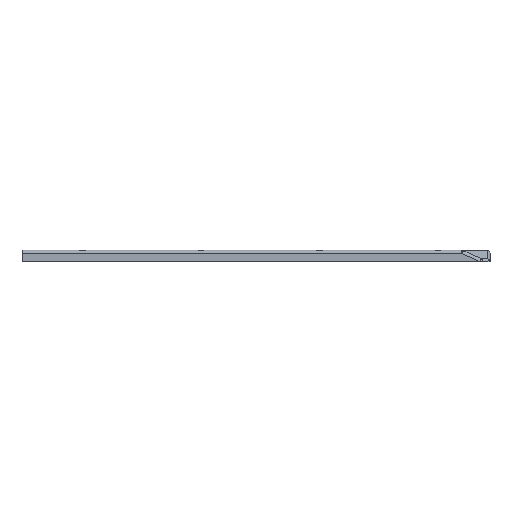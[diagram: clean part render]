
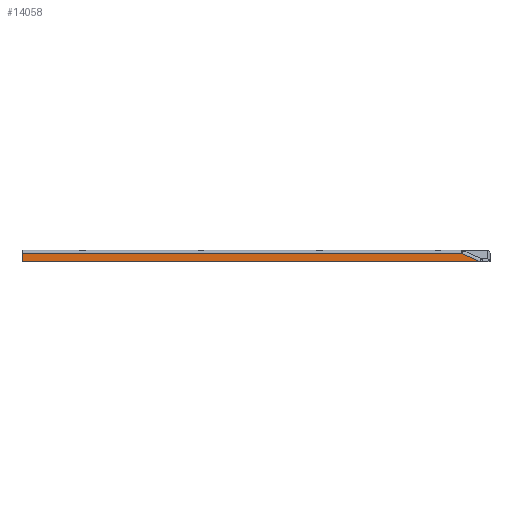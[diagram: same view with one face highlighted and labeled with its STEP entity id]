
A CAD part, front view. The second image highlights one B-rep face of the part: STEP entity #14058.
In plain terms, the highlighted planar face has unit normal (0, -1, 0).
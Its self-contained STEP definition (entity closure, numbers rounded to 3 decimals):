
#2266 = DIRECTION ( 'NONE',  ( 0., 0., 1. ) ) ;
#2311 = CARTESIAN_POINT ( 'NONE',  ( 216.821, -2., -3.5 ) ) ;
#2356 = CARTESIAN_POINT ( 'NONE',  ( 216.821, -2., -3.323 ) ) ;
#2432 = EDGE_CURVE ( 'NONE', #12665, #15938, #11531, .T. ) ;
#2632 = FACE_OUTER_BOUND ( 'NONE', #10693, .T. ) ;
#2634 = CARTESIAN_POINT ( 'NONE',  ( 207.03, -2., 1.083 ) ) ;
#3195 = LINE ( 'NONE', #4096, #10978 ) ;
#3428 = VERTEX_POINT ( 'NONE', #2311 ) ;
#3508 = ORIENTED_EDGE ( 'NONE', *, *, #15409, .T. ) ;
#3590 = LINE ( 'NONE', #10104, #4403 ) ;
#4037 = DIRECTION ( 'NONE',  ( 0., 0., -1. ) ) ;
#4096 = CARTESIAN_POINT ( 'NONE',  ( 4.443, -2., 0.5 ) ) ;
#4140 = CARTESIAN_POINT ( 'NONE',  ( 4.443, -2., 2. ) ) ;
#4403 = VECTOR ( 'NONE', #8679, 1000. ) ;
#4620 = EDGE_CURVE ( 'NONE', #11565, #13204, #5098, .T. ) ;
#4982 = CARTESIAN_POINT ( 'NONE',  ( 4.443, -2., 0.5 ) ) ;
#5098 = LINE ( 'NONE', #4140, #16105 ) ;
#6107 = LINE ( 'NONE', #7243, #8771 ) ;
#7189 = DIRECTION ( 'NONE',  ( 0., 0., 1. ) ) ;
#7243 = CARTESIAN_POINT ( 'NONE',  ( 216.821, -2., -2.5 ) ) ;
#7362 = PLANE ( 'NONE',  #10121 ) ;
#7763 = ORIENTED_EDGE ( 'NONE', *, *, #14001, .T. ) ;
#8034 = ORIENTED_EDGE ( 'NONE', *, *, #15615, .T. ) ;
#8679 = DIRECTION ( 'NONE',  ( 1., 0., 0. ) ) ;
#8771 = VECTOR ( 'NONE', #7189, 1000. ) ;
#10038 = DIRECTION ( 'NONE',  ( 0., 1., 0. ) ) ;
#10104 = CARTESIAN_POINT ( 'NONE',  ( 221.443, -2., -3.5 ) ) ;
#10121 = AXIS2_PLACEMENT_3D ( 'NONE', #15380, #10038, #2266 ) ;
#10353 = DIRECTION ( 'NONE',  ( -0.912, 0., 0.41 ) ) ;
#10693 = EDGE_LOOP ( 'NONE', ( #8034, #7763, #11114, #3508, #15138 ) ) ;
#10918 = VECTOR ( 'NONE', #10353, 1000. ) ;
#10978 = VECTOR ( 'NONE', #14726, 1000. ) ;
#11114 = ORIENTED_EDGE ( 'NONE', *, *, #2432, .T. ) ;
#11531 = LINE ( 'NONE', #2634, #10918 ) ;
#11565 = VERTEX_POINT ( 'NONE', #4982 ) ;
#12665 = VERTEX_POINT ( 'NONE', #2356 ) ;
#13204 = VERTEX_POINT ( 'NONE', #15963 ) ;
#13372 = CARTESIAN_POINT ( 'NONE',  ( 208.325, -2., 0.5 ) ) ;
#14001 = EDGE_CURVE ( 'NONE', #3428, #12665, #6107, .T. ) ;
#14058 = ADVANCED_FACE ( 'NONE', ( #2632 ), #7362, .F. ) ;
#14726 = DIRECTION ( 'NONE',  ( -1., 0., 0. ) ) ;
#15138 = ORIENTED_EDGE ( 'NONE', *, *, #4620, .T. ) ;
#15380 = CARTESIAN_POINT ( 'NONE',  ( 4.443, -2., 2. ) ) ;
#15409 = EDGE_CURVE ( 'NONE', #15938, #11565, #3195, .T. ) ;
#15615 = EDGE_CURVE ( 'NONE', #13204, #3428, #3590, .T. ) ;
#15938 = VERTEX_POINT ( 'NONE', #13372 ) ;
#15963 = CARTESIAN_POINT ( 'NONE',  ( 4.443, -2., -3.5 ) ) ;
#16105 = VECTOR ( 'NONE', #4037, 1000. ) ;
